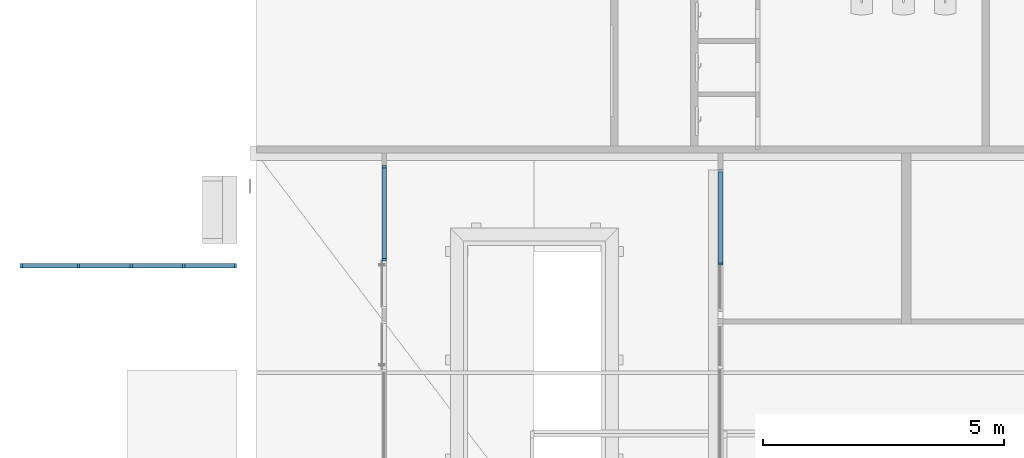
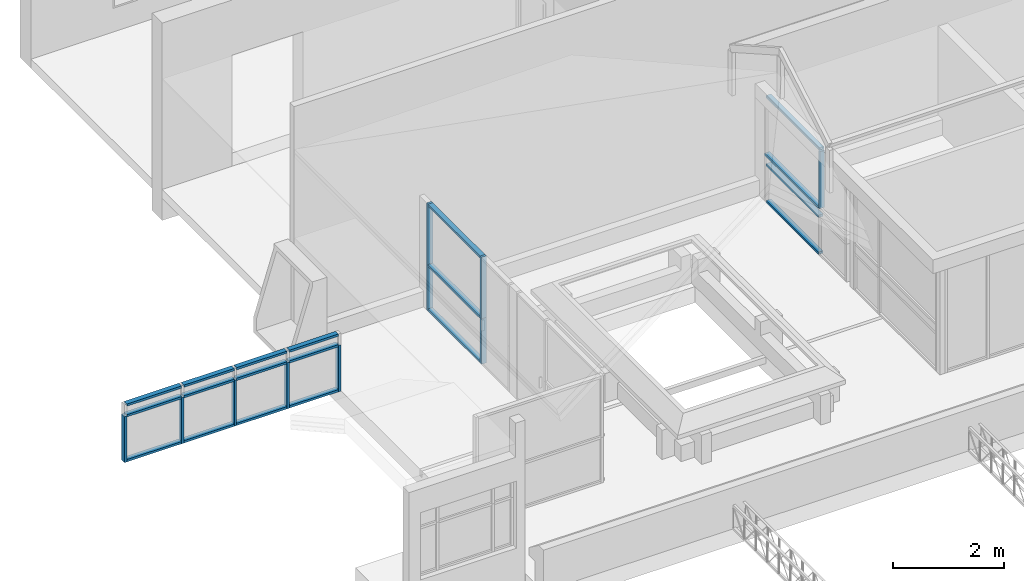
# One storey, part 8 of 153: 29 members, 3 elements without a shape of their own.
"""IFC4 building model written with IfcOpenShell, lengths in metres."""

import ifcopenshell
import ifcopenshell.guid

model = None  # the IFC model being written
_history = None  # IfcOwnerHistory: only IFC2X3 demands one
_inside = {}  # id of a spatial element -> (the spatial element, [elements in it])
_under = {}  # id of a project, library or spatial element -> (it, [spatial elements below it])
_declared = {}  # id of a project -> (the project, [libraries it declares])
_typed = {}  # id of a type object -> (the type object, [elements of that type])
_made_of = {}  # id of a material, layer set ... -> (it, [elements and type objects made of it])


def new_model(schema):
    """Start an empty IFC model of exactly this schema.

    Asked for "IFC4X3", IfcOpenShell would pick the latest addendum, in which some entities
    have other attributes; the version numbers below select the first issue.
    IFC2X3 requires an IfcOwnerHistory on every rooted entity: one is made here for all.
    """
    global model, _history
    if schema == "IFC4X3":
        model = ifcopenshell.file(schema_version=(4, 3, 0, 0))
    else:
        model = ifcopenshell.file(schema=schema)
    _inside.clear()
    _under.clear()
    _declared.clear()
    _typed.clear()
    _made_of.clear()
    _history = None
    if model.schema == "IFC2X3":
        org = make("IfcOrganization", Name="unknown")
        user = make(
            "IfcPersonAndOrganization",
            ThePerson=make("IfcPerson", FamilyName="unknown"),
            TheOrganization=org,
        )
        app = make(
            "IfcApplication",
            ApplicationDeveloper=org,
            Version="unknown",
            ApplicationFullName="unknown",
            ApplicationIdentifier="unknown",
        )
        _history = make(
            "IfcOwnerHistory",
            OwningUser=user,
            OwningApplication=app,
            ChangeAction="ADDED",
            CreationDate=0,
        )
    return model


def make(cls, **values):
    """One entity of the class cls with the attributes given. An attribute that is None is left unset."""
    return model.create_entity(
        cls, **{name: value for name, value in values.items() if value is not None}
    )


def entity(cls, *values):
    """Any entity or typed value of the class cls, its attributes in the order of the schema. None: left unset."""
    e = model.create_entity(cls)
    for i, value in enumerate(values):
        if value is not None:
            e[i] = value
    return e


def rooted(cls, **values):
    """An entity with a GlobalId (a new one), such as an element, a storey or a relation."""
    return make(cls, GlobalId=ifcopenshell.guid.new(), OwnerHistory=_history, **values)


def si_unit(unit_type, name, prefix=None):
    """IfcSIUnit, for example si_unit("LENGTHUNIT", "METRE", prefix="MILLI")."""
    return make("IfcSIUnit", UnitType=unit_type, Prefix=prefix, Name=name)


def converted_unit(unit_type, name, factor, base, dimensions=None, offset=None):
    """IfcConversionBasedUnit, such as the inch: factor (a typed value) times the base unit."""
    return make(
        "IfcConversionBasedUnit"
        if offset is None
        else "IfcConversionBasedUnitWithOffset",
        ConversionOffset=offset,
        Dimensions=None
        if dimensions is None
        else entity("IfcDimensionalExponents", *dimensions),
        UnitType=unit_type,
        Name=name,
        ConversionFactor=make(
            "IfcMeasureWithUnit", ValueComponent=factor, UnitComponent=base
        ),
    )


def derived_unit(unit_type, elements):
    """IfcDerivedUnit: a product of units, each with its exponent."""
    return make(
        "IfcDerivedUnit",
        Elements=[
            make("IfcDerivedUnitElement", Unit=unit, Exponent=power)
            for unit, power in elements
        ],
        UnitType=unit_type,
    )


def assignment(units):
    """IfcUnitAssignment: the units of a project."""
    return None if units is None else make("IfcUnitAssignment", Units=units)


def point(xyz):
    """IfcCartesianPoint."""
    return None if xyz is None else make("IfcCartesianPoint", Coordinates=xyz)


def direction(xyz):
    """IfcDirection."""
    return None if xyz is None else make("IfcDirection", DirectionRatios=xyz)


def frame(location, z_axis=None, x_axis=None):
    """IfcAxis2Placement3D, a coordinate frame: its origin and axes. An axis left out is left unset."""
    return make(
        "IfcAxis2Placement3D",
        Location=point(location),
        Axis=direction(z_axis),
        RefDirection=direction(x_axis),
    )


def origin():
    """The frame at (0, 0, 0) with its axes left unset."""
    return frame((0.0, 0.0, 0.0))


def place(relative_to, where):
    """IfcLocalPlacement: puts the frame where relative to a parent placement (None: the world)."""
    return make(
        "IfcLocalPlacement", PlacementRelTo=relative_to, RelativePlacement=where
    )


def context(
    kind, dimensions, precision=None, world=None, true_north=None, identifier=None
):
    """IfcGeometricRepresentationContext, for example the 3D "Model" context."""
    return make(
        "IfcGeometricRepresentationContext",
        ContextIdentifier=identifier,
        ContextType=kind,
        CoordinateSpaceDimension=dimensions,
        Precision=precision,
        WorldCoordinateSystem=world,
        TrueNorth=true_north,
    )


def subcontext(parent, identifier, kind, view, scale=None):
    """IfcGeometricRepresentationSubContext, for example "Body" below "Model"."""
    return make(
        "IfcGeometricRepresentationSubContext",
        ContextIdentifier=identifier,
        ContextType=kind,
        ParentContext=parent,
        TargetScale=scale,
        TargetView=view,
    )


def project(units=None, contexts=None):
    """IfcProject with its units and contexts."""
    return rooted(
        "IfcProject",
        Name="project",
        RepresentationContexts=contexts,
        UnitsInContext=assignment(units),
    )


def spatial(cls, under=None, at=None, **own):
    """A site, building, storey or space (cls), placed at a placement, below another one or the project."""
    s = rooted(cls, ObjectPlacement=at, **own)
    if under is not None:
        _under.setdefault(under.id(), (under, []))[1].append(s)
    return s


def point_list(points):
    """IfcCartesianPointList2D or 3D."""
    cls = (
        "IfcCartesianPointList2D" if len(points[0]) == 2 else "IfcCartesianPointList3D"
    )
    return make(cls, CoordList=points)


def indexed_curve(points, segments=None, self_intersect=None):
    """IfcIndexedPolyCurve: lines and arcs through numbered points (the first is 1)."""
    return make(
        "IfcIndexedPolyCurve",
        Points=point_list(points),
        Segments=segments,
        SelfIntersect=self_intersect,
    )


def outline(outer, holes=None, kind="AREA"):
    """IfcArbitraryClosedProfileDef: a profile drawn as a closed curve; with holes, ...WithVoids."""
    if holes is None:
        return make("IfcArbitraryClosedProfileDef", ProfileType=kind, OuterCurve=outer)
    return make(
        "IfcArbitraryProfileDefWithVoids",
        ProfileType=kind,
        OuterCurve=outer,
        InnerCurves=holes,
    )


def extrude(swept, where, along, depth):
    """IfcExtrudedAreaSolid: the profile swept, set in the frame where, extruded along a direction by depth."""
    return make(
        "IfcExtrudedAreaSolid",
        SweptArea=swept,
        Position=where,
        ExtrudedDirection=direction(along),
        Depth=depth,
    )


def shape(context_of_items, identifier, shape_type, items):
    """IfcShapeRepresentation: the items that make up one representation, for example the "Body"."""
    return make(
        "IfcShapeRepresentation",
        ContextOfItems=context_of_items,
        RepresentationIdentifier=identifier,
        RepresentationType=shape_type,
        Items=items,
    )


def source(mapping_origin, context_of_items, identifier, shape_type, items):
    """IfcRepresentationMap: a shape defined once, which mapped items show again and again."""
    return make(
        "IfcRepresentationMap",
        MappingOrigin=mapping_origin,
        MappedRepresentation=shape(context_of_items, identifier, shape_type, items),
    )


def transform(
    local_origin,
    x_axis=None,
    y_axis=None,
    z_axis=None,
    scale=None,
    scale2=None,
    scale3=None,
    uniform=True,
):
    """IfcCartesianTransformationOperator3D, or its non-uniform kind. x_axis, y_axis, z_axis: its Axis1, 2, 3."""
    if uniform:
        return make(
            "IfcCartesianTransformationOperator3D",
            Axis1=direction(x_axis),
            Axis2=direction(y_axis),
            LocalOrigin=point(local_origin),
            Scale=scale,
            Axis3=direction(z_axis),
        )
    return make(
        "IfcCartesianTransformationOperator3DnonUniform",
        Axis1=direction(x_axis),
        Axis2=direction(y_axis),
        LocalOrigin=point(local_origin),
        Scale=scale,
        Axis3=direction(z_axis),
        Scale2=scale2,
        Scale3=scale3,
    )


def mapped(mapping_source, mapping_target):
    """IfcMappedItem: shows the shape of a source again, moved by a transform."""
    return make(
        "IfcMappedItem", MappingSource=mapping_source, MappingTarget=mapping_target
    )


def material(Name=None, Category=None):
    """IfcMaterial."""
    return make("IfcMaterial", Name=Name, Category=Category)


def made_of(thing, what):
    """Note that an element or type object is made of a material, layer set ...; save() writes the relation."""
    if what is not None:
        _made_of.setdefault(what.id(), (what, []))[1].append(thing)
    return thing


def type_object(cls, material=None, **own):
    """A type object (cls), such as IfcWallType, which elements share."""
    return made_of(rooted(cls, **own), material)


def type_shapes(of_type, sources):
    """Give a type object the sources (RepresentationMaps) that its elements show as mapped items."""
    of_type.RepresentationMaps = sources


def element(
    cls,
    number,
    at=None,
    inside=None,
    cuts=None,
    type_object=None,
    material=None,
    context=None,
    identifier="Body",
    shape_type=None,
    held_by="IfcProductDefinitionShape",
    body=None,
    shapes=None,
    **own,
):
    """One element of the class cls, such as IfcWall. Its Tag is "e" and its number.

    at: its placement. inside: the storey or other place that contains it. cuts: it is an
    opening in that element (IfcRelVoidsElement). A single representation is given by context,
    identifier, shape_type and body (its items); several are given by shapes. held_by: the class
    of the entity that holds the representations. save() writes the other relations.
    """
    e = rooted(cls, Tag="e%d" % number, ObjectPlacement=at, **own)
    if body is not None:
        shapes = [shape(context, identifier, shape_type, body)]
    if shapes is not None:
        e.Representation = make(held_by, Representations=shapes)
    if inside is not None:
        _inside.setdefault(inside.id(), (inside, []))[1].append(e)
    if cuts is not None:
        rooted(
            "IfcRelVoidsElement", RelatingBuildingElement=cuts, RelatedOpeningElement=e
        )
    if type_object is not None:
        _typed.setdefault(type_object.id(), (type_object, []))[1].append(e)
    return made_of(e, material)


def aggregate(whole, parts):
    """IfcRelAggregates: a whole, such as a stair, and the parts it consists of."""
    return rooted("IfcRelAggregates", RelatingObject=whole, RelatedObjects=parts)


def save(model, path):
    """Write the relations noted so far, then the file.

    IfcRelAggregates (storeys below a building ...), IfcRelContainedInSpatialStructure (elements
    in a storey), IfcRelDefinesByType, IfcRelAssociatesMaterial and IfcRelDeclares: one each for
    every whole, place, type object, material and project.
    """
    for whole, parts in _under.values():
        aggregate(whole, parts)
    for where, things in _inside.values():
        rooted(
            "IfcRelContainedInSpatialStructure",
            RelatedElements=things,
            RelatingStructure=where,
        )
    for kind, things in _typed.values():
        rooted("IfcRelDefinesByType", RelatedObjects=things, RelatingType=kind)
    for what, things in _made_of.values():
        rooted("IfcRelAssociatesMaterial", RelatedObjects=things, RelatingMaterial=what)
    for by, libraries in _declared.values():
        rooted("IfcRelDeclares", RelatingContext=by, RelatedDefinitions=libraries)
    model.write(path)


model = new_model("IFC4")

# Units and contexts
model_context = context("Model", 3, precision=1e-05, world=origin(), true_north=direction((6.123031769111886e-17, 1.0)))
body_context = subcontext(model_context, "Body", "Model", "MODEL_VIEW")
ifc_project = project(units=[si_unit("LENGTHUNIT", "METRE"), si_unit("AREAUNIT", "SQUARE_METRE"), si_unit("VOLUMEUNIT", "CUBIC_METRE"), converted_unit("PLANEANGLEUNIT", "DEGREE", entity("IfcRatioMeasure", 0.017453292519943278), si_unit("PLANEANGLEUNIT", "RADIAN"), dimensions=[0, 0, 0, 0, 0, 0, 0]), si_unit("MASSUNIT", "GRAM", prefix="KILO"), derived_unit("MASSDENSITYUNIT", [(si_unit("MASSUNIT", "GRAM", prefix="KILO"), 1), (si_unit("LENGTHUNIT", "METRE"), -3)]), derived_unit("MOMENTOFINERTIAUNIT", [(si_unit("LENGTHUNIT", "METRE"), 4)]), si_unit("TIMEUNIT", "SECOND"), si_unit("FREQUENCYUNIT", "HERTZ"), si_unit("THERMODYNAMICTEMPERATUREUNIT", "DEGREE_CELSIUS"), derived_unit("THERMALTRANSMITTANCEUNIT", [(si_unit("MASSUNIT", "GRAM", prefix="KILO"), 1), (si_unit("THERMODYNAMICTEMPERATUREUNIT", "KELVIN"), -1), (si_unit("TIMEUNIT", "SECOND"), -3)]), derived_unit("VOLUMETRICFLOWRATEUNIT", [(si_unit("LENGTHUNIT", "METRE"), 3), (si_unit("TIMEUNIT", "SECOND"), -1)]), derived_unit("MASSFLOWRATEUNIT", [(si_unit("MASSUNIT", "GRAM", prefix="KILO"), 1), (si_unit("TIMEUNIT", "SECOND"), -1)]), derived_unit("ROTATIONALFREQUENCYUNIT", [(si_unit("TIMEUNIT", "SECOND"), -1)]), si_unit("ELECTRICCURRENTUNIT", "AMPERE"), si_unit("ELECTRICVOLTAGEUNIT", "VOLT"), si_unit("POWERUNIT", "WATT"), si_unit("FORCEUNIT", "NEWTON", prefix="KILO"), si_unit("ILLUMINANCEUNIT", "LUX"), si_unit("LUMINOUSFLUXUNIT", "LUMEN"), si_unit("LUMINOUSINTENSITYUNIT", "CANDELA"), derived_unit("USERDEFINED", [(si_unit("MASSUNIT", "GRAM", prefix="KILO"), -1), (si_unit("LENGTHUNIT", "METRE"), -2), (si_unit("TIMEUNIT", "SECOND"), 3), (si_unit("LUMINOUSFLUXUNIT", "LUMEN"), 1)]), derived_unit("SOUNDPOWERUNIT", [(si_unit("MASSUNIT", "GRAM", prefix="KILO"), 1), (si_unit("LENGTHUNIT", "METRE"), 2), (si_unit("TIMEUNIT", "SECOND"), -3)]), derived_unit("SOUNDPRESSUREUNIT", [(si_unit("MASSUNIT", "GRAM", prefix="KILO"), 1), (si_unit("LENGTHUNIT", "METRE"), -1), (si_unit("TIMEUNIT", "SECOND"), -2)]), derived_unit("LINEARVELOCITYUNIT", [(si_unit("LENGTHUNIT", "METRE"), 1), (si_unit("TIMEUNIT", "SECOND"), -1)]), si_unit("PRESSUREUNIT", "PASCAL"), derived_unit("USERDEFINED", [(si_unit("LENGTHUNIT", "METRE"), -2), (si_unit("MASSUNIT", "GRAM", prefix="KILO"), 1), (si_unit("TIMEUNIT", "SECOND"), -2)]), derived_unit("LINEARFORCEUNIT", [(si_unit("MASSUNIT", "GRAM", prefix="KILO"), 1), (si_unit("LENGTHUNIT", "METRE"), 1), (si_unit("TIMEUNIT", "SECOND"), -2), (si_unit("LENGTHUNIT", "METRE"), -1)]), derived_unit("PLANARFORCEUNIT", [(si_unit("MASSUNIT", "GRAM", prefix="KILO"), 1), (si_unit("LENGTHUNIT", "METRE"), 1), (si_unit("TIMEUNIT", "SECOND"), -2), (si_unit("LENGTHUNIT", "METRE"), -2)])], contexts=[model_context])

# Site, building, storey
site_placement = place(None, origin())
site = spatial("IfcSite", under=ifc_project, at=site_placement, Name="Superficie", CompositionType="ELEMENT")
building_placement = place(site_placement, origin())
building = spatial("IfcBuilding", under=site, at=building_placement, CompositionType="ELEMENT")
storey_placement = place(building_placement, frame((0.0, 0.0, 3.5999999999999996)))
storey = spatial("IfcBuildingStorey", under=building, at=storey_placement, Name="Nivel 1", CompositionType="ELEMENT", Elevation=3.5999999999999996)

# Curtain wall, members
curtain_wall_type = type_object("IfcCurtainWallType", Name="Muro cortina:Muro cortina - simple", PredefinedType="NOTDEFINED")
curtain_wall_1_placement = place(storey_placement, frame((0.0, 0.0, -3.5999999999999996)))
curtain_wall_1 = element("IfcCurtainWall", 1, at=curtain_wall_1_placement, inside=storey, type_object=curtain_wall_type, Name="Muro cortina:Muro cortina - simple", ObjectType="Muro cortina:Muro cortina - simple", PredefinedType="NOTDEFINED")
ifc_material = material(Name="<Unnamed>")
member_type_1 = type_object("IfcMemberType", Name="Montante rectangular:Montante rectangular - 5 x 10 cm", PredefinedType="MULLION", material=ifc_material)
shared_shape_1 = source(origin(), body_context, "Body", "SweptSolid", [
    extrude(outline(indexed_curve([(-0.05, -0.025), (0.05, -0.025), (0.05, 0.025), (-0.05, 0.025), (-0.05, -0.025)], self_intersect=False)), frame((0.0, 0.0, -1.2499999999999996), z_axis=(0.0, 0.0, 1.0), x_axis=(0.0, -1.0, 0.0)), (0.0, 0.0, 1.0), 1.2499999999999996),
])
type_shapes(member_type_1, [shared_shape_1])
member_1_placement = place(curtain_wall_1_placement, frame((-13.023200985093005, 3.3263932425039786, 4.63), z_axis=(0.0, 0.0, -1.0), x_axis=(0.0, 1.0, 0.0)))
member_1 = element("IfcMember", 2, at=member_1_placement, type_object=member_type_1, material=ifc_material, Name="Montante rectangular:Montante rectangular - 5 x 10 cm", ObjectType="Montante rectangular:Montante rectangular - 5 x 10 cm", PredefinedType="MULLION", context=body_context, shape_type="MappedRepresentation", body=[
    mapped(shared_shape_1, transform((0.0, 0.0, 0.0), scale=1.0)),
])
member_type_2 = type_object("IfcMemberType", Name="Montante rectangular:Montante rectangular - 5 x 10 cm", PredefinedType="MULLION", material=ifc_material)
shared_shape_2 = source(origin(), body_context, "Body", "SweptSolid", [
    extrude(outline(indexed_curve([(-0.05, -0.025), (0.05, -0.025), (0.05, 0.025), (-0.05, 0.025), (-0.05, -0.025)], self_intersect=False)), frame((0.0, 0.0, -1.930000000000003), z_axis=(0.0, 0.0, 1.0), x_axis=(0.0, -1.0, 0.0)), (0.0, 0.0, 1.0), 1.930000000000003),
])
type_shapes(member_type_2, [shared_shape_2])
member_2_placement = place(curtain_wall_1_placement, frame((-13.023200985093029, 5.281393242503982, 4.63), z_axis=(0.0, 1.0, 0.0), x_axis=(0.0, 0.0, 1.0)))
member_2 = element("IfcMember", 3, at=member_2_placement, type_object=member_type_2, material=ifc_material, Name="Montante rectangular:Montante rectangular - 5 x 10 cm", ObjectType="Montante rectangular:Montante rectangular - 5 x 10 cm", PredefinedType="MULLION", context=body_context, shape_type="MappedRepresentation", body=[
    mapped(shared_shape_2, transform((0.0, 0.0, 0.0), scale=1.0)),
])
member_type_3 = type_object("IfcMemberType", Name="Montante rectangular:Montante rectangular - 5 x 10 cm", PredefinedType="MULLION", material=ifc_material)
shared_shape_3 = source(origin(), body_context, "Body", "SweptSolid", [
    extrude(outline(indexed_curve([(-0.05, -0.025), (0.05, -0.025), (0.05, 0.025), (-0.05, 0.025), (-0.05, -0.025)], self_intersect=False)), frame((0.0, 0.0, -1.8800000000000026), z_axis=(0.0, 0.0, 1.0), x_axis=(0.0, -1.0, 0.0)), (0.0, 0.0, 1.0), 1.8800000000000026),
])
type_shapes(member_type_3, [shared_shape_3])
member_3_placement = place(curtain_wall_1_placement, frame((-13.023200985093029, 5.231393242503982, 4.43), z_axis=(0.0, 1.0, 0.0), x_axis=(0.0, 0.0, 1.0)))
member_3 = element("IfcMember", 4, at=member_3_placement, type_object=member_type_3, material=ifc_material, Name="Montante rectangular:Montante rectangular - 5 x 10 cm", ObjectType="Montante rectangular:Montante rectangular - 5 x 10 cm", PredefinedType="MULLION", context=body_context, shape_type="MappedRepresentation", body=[
    mapped(shared_shape_3, transform((0.0, 0.0, 0.0), scale=1.0)),
])
member_4_placement = place(curtain_wall_1_placement, frame((-13.023200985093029, 5.231393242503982, 3.619999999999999), z_axis=(0.0, 1.0, 0.0), x_axis=(0.0, 0.0, 1.0)))
member_4 = element("IfcMember", 5, at=member_4_placement, type_object=member_type_3, material=ifc_material, Name="Montante rectangular:Montante rectangular - 5 x 10 cm", ObjectType="Montante rectangular:Montante rectangular - 5 x 10 cm", PredefinedType="MULLION", context=body_context, shape_type="MappedRepresentation", body=[
    mapped(shared_shape_3, transform((0.0, 0.0, 0.0), scale=1.0)),
])
member_type_4 = type_object("IfcMemberType", Name="Montante rectangular:Montante rectangular - 5 x 10 cm", PredefinedType="MULLION", material=ifc_material)
shared_shape_4 = source(origin(), body_context, "Body", "SweptSolid", [
    extrude(outline(indexed_curve([(-0.05, -0.025), (0.05, -0.025), (0.05, 0.025), (-0.05, 0.025), (-0.05, -0.025)], self_intersect=False)), frame((-0.025, 0.0, -1.9050000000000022), z_axis=(0.0, 0.0, 1.0), x_axis=(0.0, -1.0, 0.0)), (0.0, 0.0, 1.0), 1.9050000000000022),
])
type_shapes(member_type_4, [shared_shape_4])
member_5_placement = place(curtain_wall_1_placement, frame((-13.023200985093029, 5.231393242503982, 5.949999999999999), z_axis=(0.0, 1.0, 0.0), x_axis=(0.0, 0.0, 1.0)))
member_5 = element("IfcMember", 6, at=member_5_placement, type_object=member_type_4, material=ifc_material, Name="Montante rectangular:Montante rectangular - 5 x 10 cm", ObjectType="Montante rectangular:Montante rectangular - 5 x 10 cm", PredefinedType="MULLION", context=body_context, shape_type="MappedRepresentation", body=[
    mapped(shared_shape_4, transform((0.0, 0.0, 0.0), scale=1.0)),
])
aggregate(curtain_wall_1, [member_2, member_3, member_1, member_4, member_5])

curtain_wall_2_placement = place(storey_placement, frame((0.0, 0.0, -3.5999999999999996)))
curtain_wall_2 = element("IfcCurtainWall", 7, at=curtain_wall_2_placement, inside=storey, type_object=curtain_wall_type, Name="Muro cortina:Muro cortina - simple", ObjectType="Muro cortina:Muro cortina - simple", PredefinedType="NOTDEFINED")
member_type_5 = type_object("IfcMemberType", Name="Montante rectangular:Montante rectangular - 5 x 10 cm", PredefinedType="MULLION", material=ifc_material)
shared_shape_5 = source(origin(), body_context, "Body", "SweptSolid", [
    extrude(outline(indexed_curve([(-0.05, -0.025), (0.05, -0.025), (0.05, 0.025), (-0.05, 0.025), (-0.05, -0.025)], self_intersect=False)), frame((-0.025, 0.0, -1.8750000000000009), z_axis=(0.0, 0.0, 1.0), x_axis=(0.0, -1.0, 0.0)), (0.0, 0.0, 1.0), 1.8750000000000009),
])
type_shapes(member_type_5, [shared_shape_5])
member_6_placement = place(curtain_wall_2_placement, frame((-19.99320098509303, 5.317083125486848, 3.5999999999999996), z_axis=(0.0, 1.0, 0.0), x_axis=(0.0, 0.0, -1.0)))
member_6 = element("IfcMember", 8, at=member_6_placement, type_object=member_type_5, material=ifc_material, Name="Montante rectangular:Montante rectangular - 5 x 10 cm", ObjectType="Montante rectangular:Montante rectangular - 5 x 10 cm", PredefinedType="MULLION", context=body_context, shape_type="MappedRepresentation", body=[
    mapped(shared_shape_5, transform((0.0, 0.0, 0.0), scale=1.0)),
])
member_type_6 = type_object("IfcMemberType", Name="Montante rectangular:Montante rectangular - 5 x 10 cm", PredefinedType="MULLION", material=ifc_material)
shared_shape_6 = source(origin(), body_context, "Body", "SweptSolid", [
    extrude(outline(indexed_curve([(-0.05, -0.025), (0.05, -0.025), (0.05, 0.025), (-0.05, 0.025), (-0.05, -0.025)], self_intersect=False)), frame((-0.025, 0.0, -1.3499999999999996), z_axis=(0.0, 0.0, 1.0), x_axis=(0.0, -1.0, 0.0)), (0.0, 0.0, 1.0), 1.3499999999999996),
])
type_shapes(member_type_6, [shared_shape_6])
member_7_placement = place(curtain_wall_2_placement, frame((-19.99320098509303, 5.3670831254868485, 5.949999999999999), z_axis=(0.0, 0.0, 1.0), x_axis=(0.0, 1.0, 0.0)))
member_7 = element("IfcMember", 9, at=member_7_placement, type_object=member_type_6, material=ifc_material, Name="Montante rectangular:Montante rectangular - 5 x 10 cm", ObjectType="Montante rectangular:Montante rectangular - 5 x 10 cm", PredefinedType="MULLION", context=body_context, shape_type="MappedRepresentation", body=[
    mapped(shared_shape_6, transform((0.0, 0.0, 0.0), scale=1.0)),
])
member_type_7 = type_object("IfcMemberType", Name="Montante rectangular:Montante rectangular - 5 x 10 cm", PredefinedType="MULLION", material=ifc_material)
shared_shape_7 = source(origin(), body_context, "Body", "SweptSolid", [
    extrude(outline(indexed_curve([(-0.05, -0.025), (0.05, -0.025), (0.05, 0.025), (-0.05, 0.025), (-0.05, -0.025)], self_intersect=False)), frame((-0.025, 0.0, -1.0), z_axis=(0.0, 0.0, 1.0), x_axis=(0.0, -1.0, 0.0)), (0.0, 0.0, 1.0), 1.0000000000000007),
])
type_shapes(member_type_7, [shared_shape_7])
member_8_placement = place(curtain_wall_2_placement, frame((-19.99320098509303, 5.3670831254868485, 4.6), z_axis=(0.0, 0.0, 1.0), x_axis=(0.0, 1.0, 0.0)))
member_8 = element("IfcMember", 10, at=member_8_placement, type_object=member_type_7, material=ifc_material, Name="Montante rectangular:Montante rectangular - 5 x 10 cm", ObjectType="Montante rectangular:Montante rectangular - 5 x 10 cm", PredefinedType="MULLION", context=body_context, shape_type="MappedRepresentation", body=[
    mapped(shared_shape_7, transform((0.0, 0.0, 0.0), scale=1.0)),
])
member_type_8 = type_object("IfcMemberType", Name="Montante rectangular:Montante rectangular - 5 x 10 cm", PredefinedType="MULLION", material=ifc_material)
shared_shape_8 = source(origin(), body_context, "Body", "SweptSolid", [
    extrude(outline(indexed_curve([(-0.05, -0.025), (0.05, -0.025), (0.05, 0.025), (-0.05, 0.025), (-0.05, -0.025)], self_intersect=False)), frame((0.0, 0.0, -1.8750000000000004), z_axis=(0.0, 0.0, 1.0), x_axis=(0.0, -1.0, 0.0)), (0.0, 0.0, 1.0), 1.8750000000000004),
])
type_shapes(member_type_8, [shared_shape_8])
member_9_placement = place(curtain_wall_2_placement, frame((-19.993200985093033, 3.442083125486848, 4.6), z_axis=(0.0, -1.0, 0.0), x_axis=(0.0, 0.0, 1.0)))
member_9 = element("IfcMember", 11, at=member_9_placement, type_object=member_type_8, material=ifc_material, Name="Montante rectangular:Montante rectangular - 5 x 10 cm", ObjectType="Montante rectangular:Montante rectangular - 5 x 10 cm", PredefinedType="MULLION", context=body_context, shape_type="MappedRepresentation", body=[
    mapped(shared_shape_8, transform((0.0, 0.0, 0.0), scale=1.0)),
])
member_type_9 = type_object("IfcMemberType", Name="Montante rectangular:Montante rectangular - 5 x 10 cm", PredefinedType="MULLION", material=ifc_material)
shared_shape_9 = source(origin(), body_context, "Body", "SweptSolid", [
    extrude(outline(indexed_curve([(-0.05, -0.025), (0.05, -0.025), (0.05, 0.025), (-0.05, 0.025), (-0.05, -0.025)], self_intersect=False)), frame((-0.025, 0.0, -1.8750000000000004), z_axis=(0.0, 0.0, 1.0), x_axis=(0.0, -1.0, 0.0)), (0.0, 0.0, 1.0), 1.8750000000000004),
])
type_shapes(member_type_9, [shared_shape_9])
member_10_placement = place(curtain_wall_2_placement, frame((-19.993200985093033, 3.442083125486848, 5.949999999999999), z_axis=(0.0, -1.0, 0.0), x_axis=(0.0, 0.0, 1.0)))
member_10 = element("IfcMember", 12, at=member_10_placement, type_object=member_type_9, material=ifc_material, Name="Montante rectangular:Montante rectangular - 5 x 10 cm", ObjectType="Montante rectangular:Montante rectangular - 5 x 10 cm", PredefinedType="MULLION", context=body_context, shape_type="MappedRepresentation", body=[
    mapped(shared_shape_9, transform((0.0, 0.0, 0.0), scale=1.0)),
])
member_type_10 = type_object("IfcMemberType", Name="Montante rectangular:Montante rectangular - 5 x 10 cm", PredefinedType="MULLION", material=ifc_material)
shared_shape_10 = source(origin(), body_context, "Body", "SweptSolid", [
    extrude(outline(indexed_curve([(-0.05, -0.025), (0.05, -0.025), (0.05, 0.025), (-0.05, 0.025), (-0.05, -0.025)], self_intersect=False)), frame((0.0, 0.0, -1.35), z_axis=(0.0, 0.0, 1.0), x_axis=(0.0, -1.0, 0.0)), (0.0, 0.0, 1.0), 1.35),
])
type_shapes(member_type_10, [shared_shape_10])
member_11_placement = place(curtain_wall_2_placement, frame((-19.993200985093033, 3.417083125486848, 4.6), z_axis=(0.0, 0.0, -1.0), x_axis=(0.0, -1.0, 0.0)))
member_11 = element("IfcMember", 13, at=member_11_placement, type_object=member_type_10, material=ifc_material, Name="Montante rectangular:Montante rectangular - 5 x 10 cm", ObjectType="Montante rectangular:Montante rectangular - 5 x 10 cm", PredefinedType="MULLION", context=body_context, shape_type="MappedRepresentation", body=[
    mapped(shared_shape_10, transform((0.0, 0.0, 0.0), scale=1.0)),
])
member_type_11 = type_object("IfcMemberType", Name="Montante rectangular:Montante rectangular - 5 x 10 cm", PredefinedType="MULLION", material=ifc_material)
shared_shape_11 = source(origin(), body_context, "Body", "SweptSolid", [
    extrude(outline(indexed_curve([(-0.05, -0.025), (0.05, -0.025), (0.05, 0.025), (-0.05, 0.025), (-0.05, -0.025)], self_intersect=False)), frame((0.0, 0.0, -1.0), z_axis=(0.0, 0.0, 1.0), x_axis=(0.0, -1.0, 0.0)), (0.0, 0.0, 1.0), 1.0),
])
type_shapes(member_type_11, [shared_shape_11])
member_12_placement = place(curtain_wall_2_placement, frame((-19.993200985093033, 3.417083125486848, 3.5999999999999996), z_axis=(0.0, 0.0, -1.0), x_axis=(0.0, -1.0, 0.0)))
member_12 = element("IfcMember", 14, at=member_12_placement, type_object=member_type_11, material=ifc_material, Name="Montante rectangular:Montante rectangular - 5 x 10 cm", ObjectType="Montante rectangular:Montante rectangular - 5 x 10 cm", PredefinedType="MULLION", context=body_context, shape_type="MappedRepresentation", body=[
    mapped(shared_shape_11, transform((0.0, 0.0, 0.0), scale=1.0)),
])
aggregate(curtain_wall_2, [member_6, member_7, member_8, member_9, member_10, member_11, member_12])

curtain_wall_3_placement = place(storey_placement, frame((0.0, 0.0, -3.5999999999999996)))
curtain_wall_3 = element("IfcCurtainWall", 15, at=curtain_wall_3_placement, inside=storey, type_object=curtain_wall_type, Name="Muro cortina:Muro cortina - simple", ObjectType="Muro cortina:Muro cortina - simple", PredefinedType="NOTDEFINED")
member_type_12 = type_object("IfcMemberType", Name="Montante rectangular:Montante rectangular - 5 x 10 cm", PredefinedType="MULLION", material=ifc_material)
shared_shape_12 = source(origin(), body_context, "Body", "SweptSolid", [
    extrude(outline(indexed_curve([(-0.05, -0.025), (0.05, -0.025), (0.05, 0.025), (-0.05, 0.025), (-0.05, -0.025)], self_intersect=False)), frame((-0.025, 0.0, -1.0182218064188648), z_axis=(0.0, 0.0, 1.0), x_axis=(0.0, -1.0, 0.0)), (0.0, 0.0, 1.0), 1.0182218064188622),
])
type_shapes(member_type_12, [shared_shape_12])
member_13_placement = place(curtain_wall_3_placement, frame((-24.119885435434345, 3.2908292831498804, 4.159999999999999), z_axis=(-1.0, 0.0, 0.0), x_axis=(0.0, 0.0, -1.0)))
member_13 = element("IfcMember", 16, at=member_13_placement, type_object=member_type_12, material=ifc_material, Name="Montante rectangular:Montante rectangular - 5 x 10 cm", ObjectType="Montante rectangular:Montante rectangular - 5 x 10 cm", PredefinedType="MULLION", context=body_context, shape_type="MappedRepresentation", body=[
    mapped(shared_shape_12, transform((0.0, 0.0, 0.0), scale=1.0)),
])
member_type_13 = type_object("IfcMemberType", Name="Montante rectangular:Montante rectangular - 5 x 10 cm", PredefinedType="MULLION", material=ifc_material)
shared_shape_13 = source(origin(), body_context, "Body", "SweptSolid", [
    extrude(outline(indexed_curve([(-0.05, -0.025), (0.05, -0.025), (0.05, 0.025), (-0.05, 0.025), (-0.05, -0.025)], self_intersect=False)), frame((-0.025, 0.0, -1.0107145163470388), z_axis=(0.0, 0.0, 1.0), x_axis=(0.0, -1.0, 0.0)), (0.0, 0.0, 1.0), 1.0107145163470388),
])
type_shapes(member_type_13, [shared_shape_13])
member_14_placement = place(curtain_wall_3_placement, frame((-23.05166362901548, 3.290829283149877, 4.159999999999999), z_axis=(0.0, 0.0, -1.0), x_axis=(1.0, 0.0, 0.0)))
member_14 = element("IfcMember", 17, at=member_14_placement, type_object=member_type_13, material=ifc_material, Name="Montante rectangular:Montante rectangular - 5 x 10 cm", ObjectType="Montante rectangular:Montante rectangular - 5 x 10 cm", PredefinedType="MULLION", context=body_context, shape_type="MappedRepresentation", body=[
    mapped(shared_shape_13, transform((0.0, 0.0, 0.0), scale=1.0)),
])
member_type_14 = type_object("IfcMemberType", Name="Montante rectangular:Montante rectangular - 5 x 10 cm", PredefinedType="MULLION", material=ifc_material)
shared_shape_14 = source(origin(), body_context, "Body", "SweptSolid", [
    extrude(outline(indexed_curve([(-0.05, -0.025), (0.05, -0.025), (0.05, 0.025), (-0.05, 0.025), (-0.05, -0.025)], self_intersect=False)), frame((-0.025, 0.0, -1.0182218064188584), z_axis=(0.0, 0.0, 1.0), x_axis=(0.0, -1.0, 0.0)), (0.0, 0.0, 1.0), 1.0182218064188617),
])
type_shapes(member_type_14, [shared_shape_14])
member_15_placement = place(curtain_wall_3_placement, frame((-23.101663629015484, 3.290829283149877, 5.429999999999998), z_axis=(1.0, 0.0, 0.0), x_axis=(0.0, 0.0, 1.0)))
member_15 = element("IfcMember", 18, at=member_15_placement, type_object=member_type_14, material=ifc_material, Name="Montante rectangular:Montante rectangular - 5 x 10 cm", ObjectType="Montante rectangular:Montante rectangular - 5 x 10 cm", PredefinedType="MULLION", context=body_context, shape_type="MappedRepresentation", body=[
    mapped(shared_shape_14, transform((0.0, 0.0, 0.0), scale=1.0)),
])
member_type_15 = type_object("IfcMemberType", Name="Montante rectangular:Montante rectangular - 5 x 10 cm", PredefinedType="MULLION", material=ifc_material)
shared_shape_15 = source(origin(), body_context, "Body", "SweptSolid", [
    extrude(outline(indexed_curve([(-0.05, -0.025), (0.05, -0.025), (0.05, 0.025), (-0.05, 0.025), (-0.05, -0.025)], self_intersect=False)), frame((-0.025, 0.0, -1.0432218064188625), z_axis=(0.0, 0.0, 1.0), x_axis=(0.0, -1.0, 0.0)), (0.0, 0.0, 1.0), 1.0432218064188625),
])
type_shapes(member_type_15, [shared_shape_15])
member_16_placement = place(curtain_wall_3_placement, frame((-25.213107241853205, 3.2908292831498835, 4.159999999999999), z_axis=(-1.0, 0.0, 0.0), x_axis=(0.0, 0.0, -1.0)))
member_16 = element("IfcMember", 19, at=member_16_placement, type_object=member_type_15, material=ifc_material, Name="Montante rectangular:Montante rectangular - 5 x 10 cm", ObjectType="Montante rectangular:Montante rectangular - 5 x 10 cm", PredefinedType="MULLION", context=body_context, shape_type="MappedRepresentation", body=[
    mapped(shared_shape_15, transform((0.0, 0.0, 0.0), scale=1.0)),
])
member_17_placement = place(curtain_wall_3_placement, frame((-26.30632904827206, 3.2908292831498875, 4.159999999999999), z_axis=(-1.0, 0.0, 0.0), x_axis=(0.0, 0.0, -1.0)))
member_17 = element("IfcMember", 20, at=member_17_placement, type_object=member_type_15, material=ifc_material, Name="Montante rectangular:Montante rectangular - 5 x 10 cm", ObjectType="Montante rectangular:Montante rectangular - 5 x 10 cm", PredefinedType="MULLION", context=body_context, shape_type="MappedRepresentation", body=[
    mapped(shared_shape_15, transform((0.0, 0.0, 0.0), scale=1.0)),
])
member_type_16 = type_object("IfcMemberType", Name="Montante rectangular:Montante rectangular - 5 x 10 cm", PredefinedType="MULLION", material=ifc_material)
shared_shape_16 = source(origin(), body_context, "Body", "SweptSolid", [
    extrude(outline(indexed_curve([(-0.05, -0.025), (0.05, -0.025), (0.05, 0.025), (-0.05, 0.025), (-0.05, -0.025)], self_intersect=False)), frame((-0.025, 0.0, -1.0432218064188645), z_axis=(0.0, 0.0, 1.0), x_axis=(0.0, -1.0, 0.0)), (0.0, 0.0, 1.0), 1.0432218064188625),
])
type_shapes(member_type_16, [shared_shape_16])
member_18_placement = place(curtain_wall_3_placement, frame((-25.263107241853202, 3.2908292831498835, 5.429999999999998), z_axis=(1.0, 0.0, 0.0), x_axis=(0.0, 0.0, 1.0)))
member_18 = element("IfcMember", 21, at=member_18_placement, type_object=member_type_16, material=ifc_material, Name="Montante rectangular:Montante rectangular - 5 x 10 cm", ObjectType="Montante rectangular:Montante rectangular - 5 x 10 cm", PredefinedType="MULLION", context=body_context, shape_type="MappedRepresentation", body=[
    mapped(shared_shape_16, transform((0.0, 0.0, 0.0), scale=1.0)),
])
member_19_placement = place(curtain_wall_3_placement, frame((-24.16988543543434, 3.2908292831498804, 5.429999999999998), z_axis=(1.0, 0.0, 0.0), x_axis=(0.0, 0.0, 1.0)))
member_19 = element("IfcMember", 22, at=member_19_placement, type_object=member_type_16, material=ifc_material, Name="Montante rectangular:Montante rectangular - 5 x 10 cm", ObjectType="Montante rectangular:Montante rectangular - 5 x 10 cm", PredefinedType="MULLION", context=body_context, shape_type="MappedRepresentation", body=[
    mapped(shared_shape_16, transform((0.0, 0.0, 0.0), scale=1.0)),
])
member_type_17 = type_object("IfcMemberType", Name="Montante rectangular:Montante rectangular - 5 x 10 cm", PredefinedType="MULLION", material=ifc_material)
shared_shape_17 = source(origin(), body_context, "Body", "SweptSolid", [
    extrude(outline(indexed_curve([(-0.05, -0.025), (0.05, -0.025), (0.05, 0.025), (-0.05, 0.025), (-0.05, -0.025)], self_intersect=False)), frame((-0.025, 0.0, -1.0107145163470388), z_axis=(0.0, 0.0, 1.0), x_axis=(0.0, -1.0, 0.0)), (0.0, 0.0, 1.0), 1.0107145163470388),
])
type_shapes(member_type_17, [shared_shape_17])
member_20_placement = place(curtain_wall_3_placement, frame((-27.543200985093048, 3.290829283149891, 5.170714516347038), z_axis=(0.0, 0.0, 1.0), x_axis=(-1.0, 0.0, 0.0)))
member_20 = element("IfcMember", 23, at=member_20_placement, type_object=member_type_17, material=ifc_material, Name="Montante rectangular:Montante rectangular - 5 x 10 cm", ObjectType="Montante rectangular:Montante rectangular - 5 x 10 cm", PredefinedType="MULLION", context=body_context, shape_type="MappedRepresentation", body=[
    mapped(shared_shape_17, transform((0.0, 0.0, 0.0), scale=1.0)),
])
member_type_18 = type_object("IfcMemberType", Name="Montante rectangular:Montante rectangular - 5 x 10 cm", PredefinedType="MULLION", material=ifc_material)
shared_shape_18 = source(origin(), body_context, "Body", "SweptSolid", [
    extrude(outline(indexed_curve([(-0.05, -0.025), (0.05, -0.025), (0.05, 0.025), (-0.05, 0.025), (-0.05, -0.025)], self_intersect=False)), frame((0.0, 0.0, -1.0432218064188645), z_axis=(0.0, 0.0, 1.0), x_axis=(0.0, -1.0, 0.0)), (0.0, 0.0, 1.0), 1.0432218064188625),
])
type_shapes(member_type_18, [shared_shape_18])
member_21_placement = place(curtain_wall_3_placement, frame((-25.263107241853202, 3.2908292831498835, 5.170714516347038), z_axis=(1.0, 0.0, 0.0), x_axis=(0.0, 0.0, 1.0)))
member_21 = element("IfcMember", 24, at=member_21_placement, type_object=member_type_18, material=ifc_material, Name="Montante rectangular:Montante rectangular - 5 x 10 cm", ObjectType="Montante rectangular:Montante rectangular - 5 x 10 cm", PredefinedType="MULLION", context=body_context, shape_type="MappedRepresentation", body=[
    mapped(shared_shape_18, transform((0.0, 0.0, 0.0), scale=1.0)),
])
member_22_placement = place(curtain_wall_3_placement, frame((-24.16988543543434, 3.2908292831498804, 5.170714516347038), z_axis=(1.0, 0.0, 0.0), x_axis=(0.0, 0.0, 1.0)))
member_22 = element("IfcMember", 25, at=member_22_placement, type_object=member_type_18, material=ifc_material, Name="Montante rectangular:Montante rectangular - 5 x 10 cm", ObjectType="Montante rectangular:Montante rectangular - 5 x 10 cm", PredefinedType="MULLION", context=body_context, shape_type="MappedRepresentation", body=[
    mapped(shared_shape_18, transform((0.0, 0.0, 0.0), scale=1.0)),
])
member_type_19 = type_object("IfcMemberType", Name="Montante rectangular:Montante rectangular - 5 x 10 cm", PredefinedType="MULLION", material=ifc_material)
shared_shape_19 = source(origin(), body_context, "Body", "SweptSolid", [
    extrude(outline(indexed_curve([(-0.05, -0.025), (0.05, -0.025), (0.05, 0.025), (-0.05, 0.025), (-0.05, -0.025)], self_intersect=False)), frame((0.0, 0.0, -1.0182218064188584), z_axis=(0.0, 0.0, 1.0), x_axis=(0.0, -1.0, 0.0)), (0.0, 0.0, 1.0), 1.0182218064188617),
])
type_shapes(member_type_19, [shared_shape_19])
member_23_placement = place(curtain_wall_3_placement, frame((-23.101663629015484, 3.290829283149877, 5.170714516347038), z_axis=(1.0, 0.0, 0.0), x_axis=(0.0, 0.0, 1.0)))
member_23 = element("IfcMember", 26, at=member_23_placement, type_object=member_type_19, material=ifc_material, Name="Montante rectangular:Montante rectangular - 5 x 10 cm", ObjectType="Montante rectangular:Montante rectangular - 5 x 10 cm", PredefinedType="MULLION", context=body_context, shape_type="MappedRepresentation", body=[
    mapped(shared_shape_19, transform((0.0, 0.0, 0.0), scale=1.0)),
])
member_type_20 = type_object("IfcMemberType", Name="Montante rectangular:Montante rectangular - 5 x 10 cm", PredefinedType="MULLION", material=ifc_material)
shared_shape_20 = source(origin(), body_context, "Body", "SweptSolid", [
    extrude(outline(indexed_curve([(-0.05, -0.025), (0.05, -0.025), (0.05, 0.025), (-0.05, 0.025), (-0.05, -0.025)], self_intersect=False)), frame((0.0, 0.0, -1.0107145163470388), z_axis=(0.0, 0.0, 1.0), x_axis=(0.0, -1.0, 0.0)), (0.0, 0.0, 1.0), 1.0107145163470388),
])
type_shapes(member_type_20, [shared_shape_20])
member_24_placement = place(curtain_wall_3_placement, frame((-24.144885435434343, 3.2908292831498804, 4.159999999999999), z_axis=(0.0, 0.0, -1.0), x_axis=(1.0, 0.0, 0.0)))
member_24 = element("IfcMember", 27, at=member_24_placement, type_object=member_type_20, material=ifc_material, Name="Montante rectangular:Montante rectangular - 5 x 10 cm", ObjectType="Montante rectangular:Montante rectangular - 5 x 10 cm", PredefinedType="MULLION", context=body_context, shape_type="MappedRepresentation", body=[
    mapped(shared_shape_20, transform((0.0, 0.0, 0.0), scale=1.0)),
])
member_25_placement = place(curtain_wall_3_placement, frame((-25.238107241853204, 3.2908292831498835, 4.159999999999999), z_axis=(0.0, 0.0, -1.0), x_axis=(1.0, 0.0, 0.0)))
member_25 = element("IfcMember", 28, at=member_25_placement, type_object=member_type_20, material=ifc_material, Name="Montante rectangular:Montante rectangular - 5 x 10 cm", ObjectType="Montante rectangular:Montante rectangular - 5 x 10 cm", PredefinedType="MULLION", context=body_context, shape_type="MappedRepresentation", body=[
    mapped(shared_shape_20, transform((0.0, 0.0, 0.0), scale=1.0)),
])
member_26_placement = place(curtain_wall_3_placement, frame((-26.33132904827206, 3.2908292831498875, 4.159999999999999), z_axis=(0.0, 0.0, -1.0), x_axis=(1.0, 0.0, 0.0)))
member_26 = element("IfcMember", 29, at=member_26_placement, type_object=member_type_20, material=ifc_material, Name="Montante rectangular:Montante rectangular - 5 x 10 cm", ObjectType="Montante rectangular:Montante rectangular - 5 x 10 cm", PredefinedType="MULLION", context=body_context, shape_type="MappedRepresentation", body=[
    mapped(shared_shape_20, transform((0.0, 0.0, 0.0), scale=1.0)),
])
member_type_21 = type_object("IfcMemberType", Name="Montante rectangular:Montante rectangular - 5 x 10 cm", PredefinedType="MULLION", material=ifc_material)
shared_shape_21 = source(origin(), body_context, "Body", "SweptSolid", [
    extrude(outline(indexed_curve([(-0.05, -0.025), (0.05, -0.025), (0.05, 0.025), (-0.05, 0.025), (-0.05, -0.025)], self_intersect=False)), frame((-0.025, 0.0, -1.136871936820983), z_axis=(0.0, 0.0, 1.0), x_axis=(0.0, -1.0, 0.0)), (0.0, 0.0, 1.0), 1.1368719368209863),
])
type_shapes(member_type_21, [shared_shape_21])
member_27_placement = place(curtain_wall_3_placement, frame((-27.493200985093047, 3.290829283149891, 4.159999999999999), z_axis=(-1.0, 0.0, 0.0), x_axis=(0.0, 0.0, -1.0)))
member_27 = element("IfcMember", 30, at=member_27_placement, type_object=member_type_21, material=ifc_material, Name="Montante rectangular:Montante rectangular - 5 x 10 cm", ObjectType="Montante rectangular:Montante rectangular - 5 x 10 cm", PredefinedType="MULLION", context=body_context, shape_type="MappedRepresentation", body=[
    mapped(shared_shape_21, transform((0.0, 0.0, 0.0), scale=1.0)),
])
member_type_22 = type_object("IfcMemberType", Name="Montante rectangular:Montante rectangular - 5 x 10 cm", PredefinedType="MULLION", material=ifc_material)
shared_shape_22 = source(origin(), body_context, "Body", "SweptSolid", [
    extrude(outline(indexed_curve([(-0.05, -0.025), (0.05, -0.025), (0.05, 0.025), (-0.05, 0.025), (-0.05, -0.025)], self_intersect=False)), frame((-0.025, 0.0, -1.1368719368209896), z_axis=(0.0, 0.0, 1.0), x_axis=(0.0, -1.0, 0.0)), (0.0, 0.0, 1.0), 1.1368719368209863),
])
type_shapes(member_type_22, [shared_shape_22])
member_28_placement = place(curtain_wall_3_placement, frame((-26.35632904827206, 3.2908292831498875, 5.429999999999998), z_axis=(1.0, 0.0, 0.0), x_axis=(0.0, 0.0, 1.0)))
member_28 = element("IfcMember", 31, at=member_28_placement, type_object=member_type_22, material=ifc_material, Name="Montante rectangular:Montante rectangular - 5 x 10 cm", ObjectType="Montante rectangular:Montante rectangular - 5 x 10 cm", PredefinedType="MULLION", context=body_context, shape_type="MappedRepresentation", body=[
    mapped(shared_shape_22, transform((0.0, 0.0, 0.0), scale=1.0)),
])
member_type_23 = type_object("IfcMemberType", Name="Montante rectangular:Montante rectangular - 5 x 10 cm", PredefinedType="MULLION", material=ifc_material)
shared_shape_23 = source(origin(), body_context, "Body", "SweptSolid", [
    extrude(outline(indexed_curve([(-0.05, -0.025), (0.05, -0.025), (0.05, 0.025), (-0.05, 0.025), (-0.05, -0.025)], self_intersect=False)), frame((0.0, 0.0, -1.1368719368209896), z_axis=(0.0, 0.0, 1.0), x_axis=(0.0, -1.0, 0.0)), (0.0, 0.0, 1.0), 1.1368719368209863),
])
type_shapes(member_type_23, [shared_shape_23])
member_29_placement = place(curtain_wall_3_placement, frame((-26.35632904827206, 3.2908292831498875, 5.170714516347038), z_axis=(1.0, 0.0, 0.0), x_axis=(0.0, 0.0, 1.0)))
member_29 = element("IfcMember", 32, at=member_29_placement, type_object=member_type_23, material=ifc_material, Name="Montante rectangular:Montante rectangular - 5 x 10 cm", ObjectType="Montante rectangular:Montante rectangular - 5 x 10 cm", PredefinedType="MULLION", context=body_context, shape_type="MappedRepresentation", body=[
    mapped(shared_shape_23, transform((0.0, 0.0, 0.0), scale=1.0)),
])
aggregate(curtain_wall_3, [member_27, member_14, member_15, member_16, member_18, member_19, member_13, member_17, member_28, member_20, member_21, member_23, member_22, member_29, member_24, member_25, member_26])

save(model, "model.ifc")
